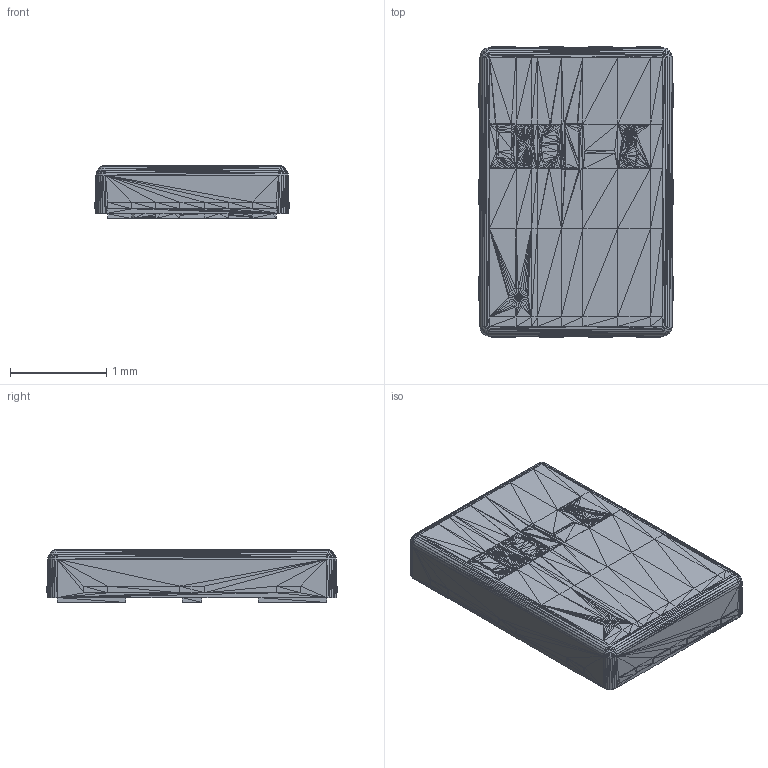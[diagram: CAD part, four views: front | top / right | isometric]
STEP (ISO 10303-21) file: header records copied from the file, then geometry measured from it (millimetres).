
FILE_DESCRIPTION(('Open CASCADE Model'),'2;1');
FILE_NAME('Open CASCADE Shape Model','2026-10-04T12:21:44',('Author'),( 'Open CASCADE'),'Open CASCADE STEP processor 7.9','Open CASCADE 7.9' ,'Unknown');
FILE_SCHEMA(('AUTOMOTIVE_DESIGN { 1 0 10303 214 1 1 1 1 }'));
Length unit declared in the file: millimetre
Products named in the file (11): afd8026c-c00f-11f1-81ef-02fc00000001; s0; s1; s2; s3; s4; s5; s6; s7; s8; s9
Assembly tree (10 placements, depth 2):
  afd8026c-c00f-11f1-81ef-02fc00000001
    s0
    s1
    s2
    s3
    s4
    s5
    s6
    s7
    s8
    s9
Bounding box: 2.02 x 3.02 x 0.55 mm (x, y, z)
Surface area: 17.7 mm2 (no closed solid volume)
Topology: 0 solids, 46 shells, 4154 faces, 7207 edges, 3058 vertices
Faces by surface type: plane 4154
Entity records: 165318 total; most frequent: CARTESIAN_POINT 32162, DIRECTION 22767, LINE 14437, VECTOR 14437, ORIENTED_EDGE 12478, PCURVE 12478, DEFINITIONAL_REPRESENTATION 12478, EDGE_CURVE 7210
